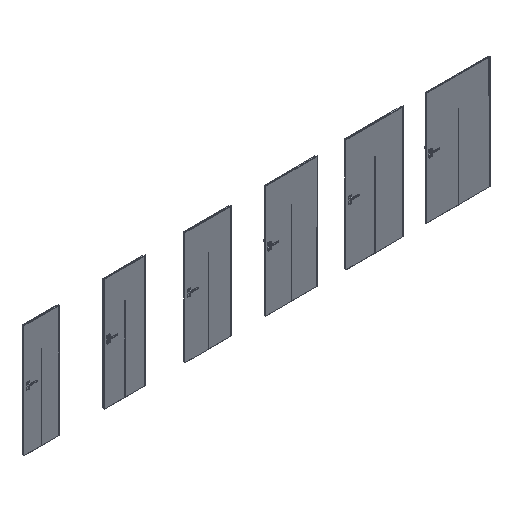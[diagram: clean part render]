
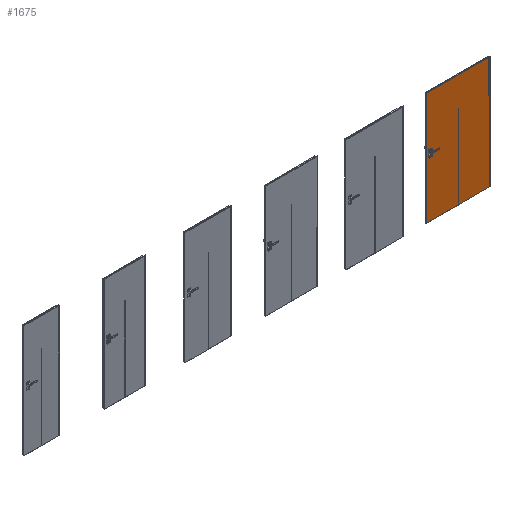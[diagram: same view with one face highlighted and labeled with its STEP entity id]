
A CAD part, isometric view. The second image highlights one B-rep face of the part: STEP entity #1675.
In plain terms, the highlighted planar face has unit normal (0, -1, 0).
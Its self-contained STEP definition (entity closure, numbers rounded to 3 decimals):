
#1675=ADVANCED_FACE('',(#3427),#2864,.F.);
#2864=PLANE('',#19207);
#3427=FACE_OUTER_BOUND('',#4555,.T.);
#4555=EDGE_LOOP('',(#7060,#7061,#7062,#7063,#7064,#7065,#7066,#7067));
#5742=CIRCLE('',#19206,3.);
#7060=ORIENTED_EDGE('',*,*,#13666,.T.);
#7061=ORIENTED_EDGE('',*,*,#13667,.T.);
#7062=ORIENTED_EDGE('',*,*,#13668,.T.);
#7063=ORIENTED_EDGE('',*,*,#13669,.F.);
#7064=ORIENTED_EDGE('',*,*,#13670,.T.);
#7065=ORIENTED_EDGE('',*,*,#13671,.F.);
#7066=ORIENTED_EDGE('',*,*,#13672,.F.);
#7067=ORIENTED_EDGE('',*,*,#13673,.T.);
#11988=VERTEX_POINT('',#26526);
#11989=VERTEX_POINT('',#26527);
#11990=VERTEX_POINT('',#26529);
#11991=VERTEX_POINT('',#26531);
#11992=VERTEX_POINT('',#26533);
#11993=VERTEX_POINT('',#26535);
#11994=VERTEX_POINT('',#26537);
#11995=VERTEX_POINT('',#26539);
#13666=EDGE_CURVE('',#11988,#11989,#16296,.T.);
#13667=EDGE_CURVE('',#11989,#11990,#16297,.T.);
#13668=EDGE_CURVE('',#11990,#11991,#5742,.T.);
#13669=EDGE_CURVE('',#11992,#11991,#16298,.T.);
#13670=EDGE_CURVE('',#11992,#11993,#16299,.T.);
#13671=EDGE_CURVE('',#11994,#11993,#16300,.T.);
#13672=EDGE_CURVE('',#11995,#11994,#16301,.T.);
#13673=EDGE_CURVE('',#11995,#11988,#16302,.T.);
#16296=LINE('',#26525,#17820);
#16297=LINE('',#26528,#17821);
#16298=LINE('',#26532,#17822);
#16299=LINE('',#26534,#17823);
#16300=LINE('',#26536,#17824);
#16301=LINE('',#26538,#17825);
#16302=LINE('',#26540,#17826);
#17820=VECTOR('',#21381,1.);
#17821=VECTOR('',#21382,1.);
#17822=VECTOR('',#21385,1.);
#17823=VECTOR('',#21386,1.);
#17824=VECTOR('',#21387,1.);
#17825=VECTOR('',#21388,1.);
#17826=VECTOR('',#21389,1.);
#19206=AXIS2_PLACEMENT_3D('',#26530,#21383,#21384);
#19207=AXIS2_PLACEMENT_3D('',#26541,#21390,#21391);
#21381=DIRECTION('',(1.,0.,0.));
#21382=DIRECTION('',(0.,0.,1.));
#21383=DIRECTION('',(0.,1.,0.));
#21384=DIRECTION('',(1.,0.,0.));
#21385=DIRECTION('',(0.,0.,1.));
#21386=DIRECTION('',(1.,0.,0.));
#21387=DIRECTION('',(0.,0.,-1.));
#21388=DIRECTION('',(1.,0.,0.));
#21389=DIRECTION('',(0.,0.,-1.));
#21390=DIRECTION('',(0.,1.,0.));
#21391=DIRECTION('',(-1.,0.,0.));
#26525=CARTESIAN_POINT('',(7178.,-39.3,2.));
#26526=CARTESIAN_POINT('',(6928.,-39.3,2.));
#26527=CARTESIAN_POINT('',(7497.,-39.3,2.));
#26528=CARTESIAN_POINT('',(7497.,-39.3,1513.));
#26529=CARTESIAN_POINT('',(7497.,-39.3,1510.));
#26530=CARTESIAN_POINT('',(7500.,-39.3,1510.));
#26531=CARTESIAN_POINT('',(7503.,-39.3,1510.));
#26532=CARTESIAN_POINT('',(7503.,-39.3,1513.));
#26533=CARTESIAN_POINT('',(7503.,-39.3,2.));
#26534=CARTESIAN_POINT('',(7178.,-39.3,2.));
#26535=CARTESIAN_POINT('',(8072.,-39.3,2.));
#26536=CARTESIAN_POINT('',(8072.,-39.3,2030.));
#26537=CARTESIAN_POINT('',(8072.,-39.3,2030.));
#26538=CARTESIAN_POINT('',(7178.,-39.3,2030.));
#26539=CARTESIAN_POINT('',(6928.,-39.3,2030.));
#26540=CARTESIAN_POINT('',(6928.,-39.3,2030.));
#26541=CARTESIAN_POINT('',(7178.,-39.3,2030.));
